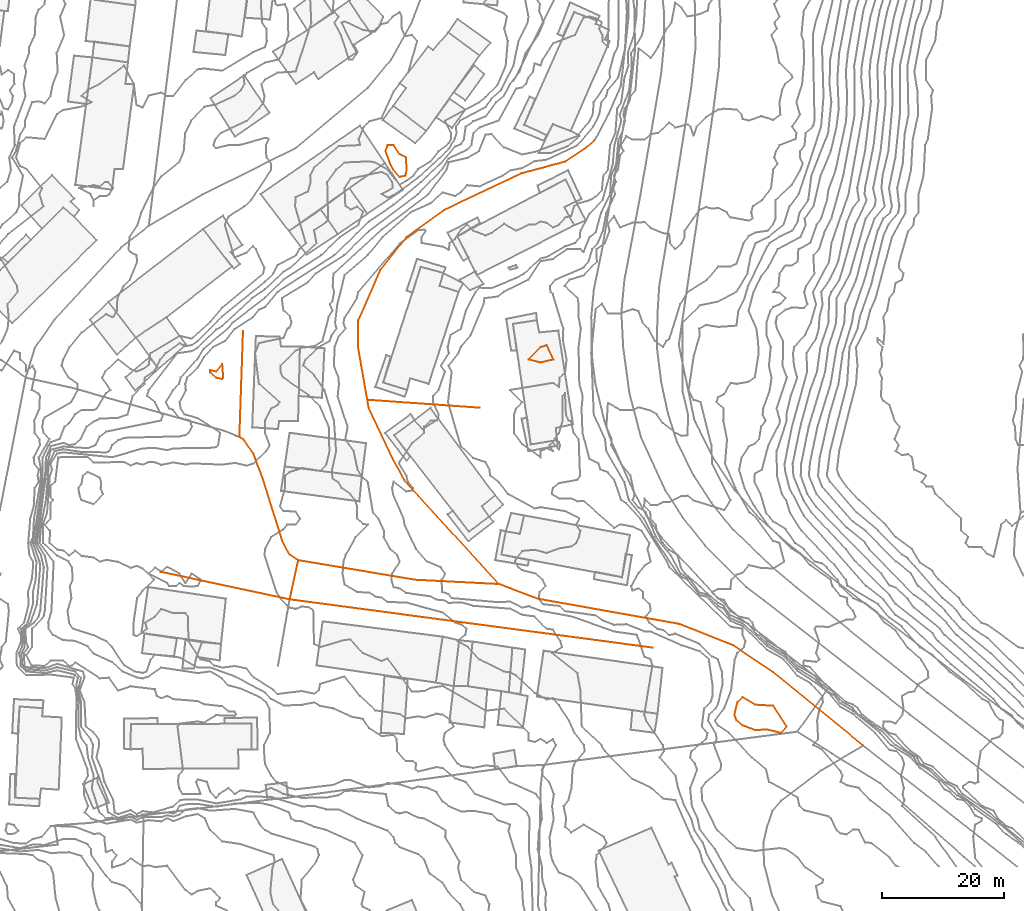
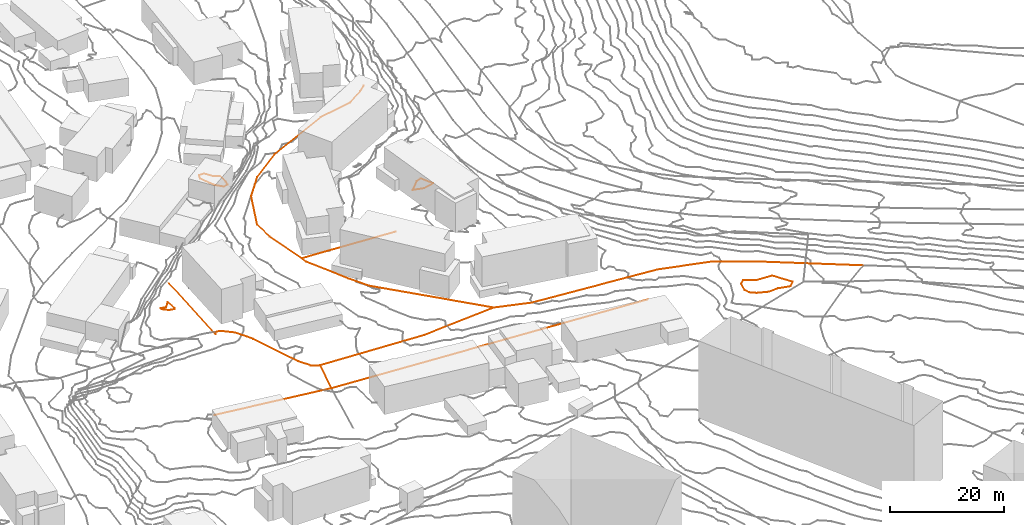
# Not in any storey, part 251 of 419: 14 proxies.
"""IFC2X3 model written with IfcOpenShell, lengths in metres."""

from ifc_helpers import new_model, entity, si_unit, frame, origin_with_axes, place, context, subcontext, project, element, save


model = new_model("IFC2X3")

# Units and contexts
model_context = context("Model", 3, precision=1e-05, world=origin_with_axes())
body_context = subcontext(model_context, "Body", "Model", "MODEL_VIEW")
ifc_project = project(units=[si_unit("AREAUNIT", "SQUARE_METRE"), si_unit("LENGTHUNIT", "METRE")], contexts=[model_context])

# Proxies
proxy_1_placement = place(None, frame((565.9920204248, 656.1976909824, 48.9880007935), z_axis=(0.0, 0.0, 1.0), x_axis=(1.0, 0.0, 0.0)))
element("IfcBuildingElementProxy", 1, at=proxy_1_placement, Name="Route 19", ObjectType="NOTDEFINED", context=body_context, shape_type="GeometricCurveSet", body=[
    entity("IfcGeometricCurveSet", [entity("IfcPolyline", [entity("IfcCartesianPoint", [21.1, -4.5, 1.0770001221]), entity("IfcCartesianPoint", [0.0, 0.0, 0.0])])]),
])
proxy_2_placement = place(None, frame((599.7920204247, 684.2976909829, 53.6), z_axis=(0.0, 0.0, 1.0), x_axis=(1.0, 0.0, 0.0)))
element("IfcBuildingElementProxy", 2, at=proxy_2_placement, Name="Route 31", ObjectType="NOTDEFINED", context=body_context, shape_type="GeometricCurveSet", body=[
    entity("IfcGeometricCurveSet", [entity("IfcPolyline", [entity("IfcCartesianPoint", [21.5, -30.1000000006, 0.2]), entity("IfcCartesianPoint", [6.1000000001, -13.2000000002, 0.0]), entity("IfcCartesianPoint", [4.1000000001, -9.5, 0.0]), entity("IfcCartesianPoint", [0.2000000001, -1.3000000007, 0.0]), entity("IfcCartesianPoint", [0.0, 0.0, 0.0])])]),
])
proxy_3_placement = place(None, frame((588.4920204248, 658.0976909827, 50.6), z_axis=(0.0, 0.0, 1.0), x_axis=(1.0, 0.0, 0.0)))
element("IfcBuildingElementProxy", 3, at=proxy_3_placement, Name="Route 75", ObjectType="NOTDEFINED", context=body_context, shape_type="GeometricCurveSet", body=[
    entity("IfcGeometricCurveSet", [entity("IfcPolyline", [entity("IfcCartesianPoint", [32.7999999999, -3.9000000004, 3.2]), entity("IfcCartesianPoint", [19.1, -3.2000000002, 1.7]), entity("IfcCartesianPoint", [0.0, 0.0, 0.0])])]),
])
proxy_4_placement = place(None, frame((578.8920204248, 678.1976909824, 48.9), z_axis=(0.0, 0.0, 1.0), x_axis=(1.0, 0.0, 0.0)))
element("IfcBuildingElementProxy", 4, at=proxy_4_placement, Name="Route 81", ObjectType="NOTDEFINED", context=body_context, shape_type="GeometricCurveSet", body=[
    entity("IfcGeometricCurveSet", [entity("IfcPolyline", [entity("IfcCartesianPoint", [9.6, -20.0999999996, 1.6]), entity("IfcCartesianPoint", [8.2, -19.2000000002, 1.6]), entity("IfcCartesianPoint", [7.0, -16.8999999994, 1.5]), entity("IfcCartesianPoint", [3.7999999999, -6.7000000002, 1.2]), entity("IfcCartesianPoint", [3.2999999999, -5.3999999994, 1.1]), entity("IfcCartesianPoint", [2.2999999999, -2.7000000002, 0.7]), entity("IfcCartesianPoint", [0.7, -0.3999999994, 0.2]), entity("IfcCartesianPoint", [0.0, 0.0, 0.0])])]),
])
proxy_5_placement = place(None, frame((587.0920204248, 651.6976909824, 50.0), z_axis=(0.0, 0.0, 1.0), x_axis=(1.0, 0.0, 0.0)))
element("IfcBuildingElementProxy", 5, at=proxy_5_placement, Name="Route 90", ObjectType="NOTDEFINED", context=body_context, shape_type="GeometricCurveSet", body=[
    entity("IfcGeometricCurveSet", [entity("IfcPolyline", [entity("IfcCartesianPoint", [0.0, 0.0, 0.0]), entity("IfcCartesianPoint", [1.4, 6.4000000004, 0.6])])]),
])
proxy_6_placement = place(None, frame((587.0920204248, 651.6976909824, 50.0650009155), z_axis=(0.0, 0.0, 1.0), x_axis=(1.0, 0.0, 0.0)))
element("IfcBuildingElementProxy", 6, at=proxy_6_placement, Name="Route 123", ObjectType="NOTDEFINED", context=body_context, shape_type="GeometricCurveSet", body=[
    entity("IfcGeometricCurveSet", [entity("IfcPolyline", [entity("IfcCartesianPoint", [59.4, -7.8999999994, 2.9868000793]), entity("IfcCartesianPoint", [0.0, 0.0, 0.0])])]),
])
proxy_7_placement = place(None, frame((599.7920204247, 684.2976909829, 53.6), z_axis=(0.0, 0.0, 1.0), x_axis=(1.0, 0.0, 0.0)))
element("IfcBuildingElementProxy", 7, at=proxy_7_placement, Name="Route 176", ObjectType="NOTDEFINED", context=body_context, shape_type="GeometricCurveSet", body=[
    entity("IfcGeometricCurveSet", [entity("IfcPolyline", [entity("IfcCartesianPoint", [0.0, 0.0, 0.0]), entity("IfcCartesianPoint", [18.3, -1.3000000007, 0.1])])]),
])
proxy_8_placement = place(None, frame((621.2920204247, 654.1976909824, 53.8), z_axis=(0.0, 0.0, 1.0), x_axis=(1.0, 0.0, 0.0)))
element("IfcBuildingElementProxy", 8, at=proxy_8_placement, Name="Route 219", ObjectType="NOTDEFINED", context=body_context, shape_type="GeometricCurveSet", body=[
    entity("IfcGeometricCurveSet", [entity("IfcPolyline", [entity("IfcCartesianPoint", [59.5, -26.3999999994, 4.2]), entity("IfcCartesianPoint", [44.8, -14.3999999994, 2.9]), entity("IfcCartesianPoint", [38.2000000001, -10.0, 2.5]), entity("IfcCartesianPoint", [29.4, -6.5, 1.8]), entity("IfcCartesianPoint", [6.3, -2.3999999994, 0.3]), entity("IfcCartesianPoint", [0.0, 0.0, 0.0])])]),
])
proxy_9_placement = place(None, frame((578.8920204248, 678.1976909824, 48.4694006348), z_axis=(0.0, 0.0, 1.0), x_axis=(1.0, 0.0, 0.0)))
element("IfcBuildingElementProxy", 9, at=proxy_9_placement, Name="Route 280", ObjectType="NOTDEFINED", context=body_context, shape_type="GeometricCurveSet", body=[
    entity("IfcGeometricCurveSet", [entity("IfcPolyline", [entity("IfcCartesianPoint", [0.6, 17.5, 0.178999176]), entity("IfcCartesianPoint", [0.0, 0.0, 0.0])])]),
])
proxy_10_placement = place(None, frame((598.2920204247, 692.7976909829, 53.6), z_axis=(0.0, 0.0, 1.0), x_axis=(1.0, 0.0, 0.0)))
element("IfcBuildingElementProxy", 10, at=proxy_10_placement, Name="Route 313", ObjectType="NOTDEFINED", context=body_context, shape_type="GeometricCurveSet", body=[
    entity("IfcGeometricCurveSet", [entity("IfcPolyline", [entity("IfcCartesianPoint", [1.5, -8.5, 0.0]), entity("IfcCartesianPoint", [0.0, 0.0, 0.0]), entity("IfcCartesianPoint", [0.0, 4.3999999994, -0.1]), entity("IfcCartesianPoint", [3.6000000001, 12.6999999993, -0.3]), entity("IfcCartesianPoint", [7.9, 18.0999999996, -1.0]), entity("IfcCartesianPoint", [14.0, 22.5, -0.9]), entity("IfcCartesianPoint", [26.7000000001, 28.5, -1.1]), entity("IfcCartesianPoint", [33.8, 30.3999999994, -1.6]), entity("IfcCartesianPoint", [37.2000000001, 32.6999999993, -1.7]), entity("IfcCartesianPoint", [38.5, 33.7999999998, -1.7])])]),
])
proxy_11_placement = place(None, frame((602.7586870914, 724.8976909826, 45.0), z_axis=(0.0, 0.0, 1.0), x_axis=(1.0, 0.0, 0.0)))
element("IfcBuildingElementProxy", 11, at=proxy_11_placement, Name="Contour 45.0 m", ObjectType="NOTDEFINED", context=body_context, shape_type="GeometricCurveSet", body=[
    entity("IfcGeometricCurveSet", [entity("IfcPolyline", [entity("IfcCartesianPoint", [2.3333333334, -4.1929836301, 0.0]), entity("IfcCartesianPoint", [3.2500132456, -4.0, 0.0]), entity("IfcCartesianPoint", [3.4583363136, -3.0, 0.0]), entity("IfcCartesianPoint", [3.3332833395, -1.0, 0.0]), entity("IfcCartesianPoint", [2.3333333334, -0.5000249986, 0.0]), entity("IfcCartesianPoint", [1.3333333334, 0.9999750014, 0.0]), entity("IfcCartesianPoint", [0.3333333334, 0.9999750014, 0.0]), entity("IfcCartesianPoint", [0.0, 0.0, 0.0]), entity("IfcCartesianPoint", [0.7619047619, -2.0, 0.0]), entity("IfcCartesianPoint", [1.2415916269, -3.0, 0.0]), entity("IfcCartesianPoint", [2.3333333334, -4.1929836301, 0.0])])]),
])
proxy_12_placement = place(None, frame((626.091920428, 690.8976909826, 55.0), z_axis=(0.0, 0.0, 1.0), x_axis=(1.0, 0.0, 0.0)))
element("IfcBuildingElementProxy", 12, at=proxy_12_placement, Name="Contour 55.0 m", ObjectType="NOTDEFINED", context=body_context, shape_type="GeometricCurveSet", body=[
    entity("IfcGeometricCurveSet", [entity("IfcPolyline", [entity("IfcCartesianPoint", [4.1000847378, 0.0, 0.0]), entity("IfcCartesianPoint", [2.0000999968, -0.5000124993, 0.0]), entity("IfcCartesianPoint", [0.0, 0.0, 0.0]), entity("IfcCartesianPoint", [2.0000999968, 2.000099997, 0.0]), entity("IfcCartesianPoint", [3.0000999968, 2.333333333, 0.0]), entity("IfcCartesianPoint", [4.1000847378, 0.0, 0.0])])]),
])
proxy_13_placement = place(None, frame((574.0920204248, 688.772708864, 49.0), z_axis=(0.0, 0.0, 1.0), x_axis=(1.0, 0.0, 0.0)))
element("IfcBuildingElementProxy", 13, at=proxy_13_placement, Name="Contour 49.0 m", ObjectType="NOTDEFINED", context=body_context, shape_type="GeometricCurveSet", body=[
    entity("IfcGeometricCurveSet", [entity("IfcPolyline", [entity("IfcCartesianPoint", [2.1666719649, -0.8750178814, 0.0]), entity("IfcCartesianPoint", [2.0, -1.0972448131, 0.0]), entity("IfcCartesianPoint", [1.0, -0.8751178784, 0.0]), entity("IfcCartesianPoint", [0.0, 0.0, 0.0]), entity("IfcCartesianPoint", [0.0, 0.3749582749, 0.0]), entity("IfcCartesianPoint", [1.0, 0.1250154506, 0.0]), entity("IfcCartesianPoint", [2.0, 1.3249516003, 0.0]), entity("IfcCartesianPoint", [2.1666719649, -0.8750178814, 0.0])])]),
])
proxy_14_placement = place(None, frame((659.7441914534, 632.8976909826, 57.0), z_axis=(0.0, 0.0, 1.0), x_axis=(1.0, 0.0, 0.0)))
element("IfcBuildingElementProxy", 14, at=proxy_14_placement, Name="Contour 57.0 m", ObjectType="NOTDEFINED", context=body_context, shape_type="GeometricCurveSet", body=[
    entity("IfcGeometricCurveSet", [entity("IfcPolyline", [entity("IfcCartesianPoint", [7.5478289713, -3.0, 0.0]), entity("IfcCartesianPoint", [5.3478289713, -2.4615373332, 0.0]), entity("IfcCartesianPoint", [3.3478289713, -2.5483855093, 0.0]), entity("IfcCartesianPoint", [1.3478289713, -1.7812507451, 0.0]), entity("IfcCartesianPoint", [0.3478251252, -1.0, 0.0]), entity("IfcCartesianPoint", [0.0, 0.0, 0.0]), entity("IfcCartesianPoint", [0.4811640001, 2.0, 0.0]), entity("IfcCartesianPoint", [1.3478289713, 2.8125074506, 0.0]), entity("IfcCartesianPoint", [3.3478289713, 1.5999923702, 0.0]), entity("IfcCartesianPoint", [6.3478289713, 1.4210510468, 0.0]), entity("IfcCartesianPoint", [8.547823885, -2.0, 0.0]), entity("IfcCartesianPoint", [7.5478289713, -3.0, 0.0])])]),
])

save(model, "model.ifc")
